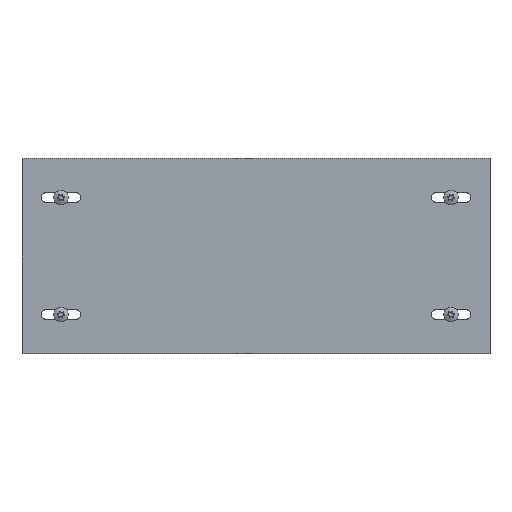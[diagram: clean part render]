
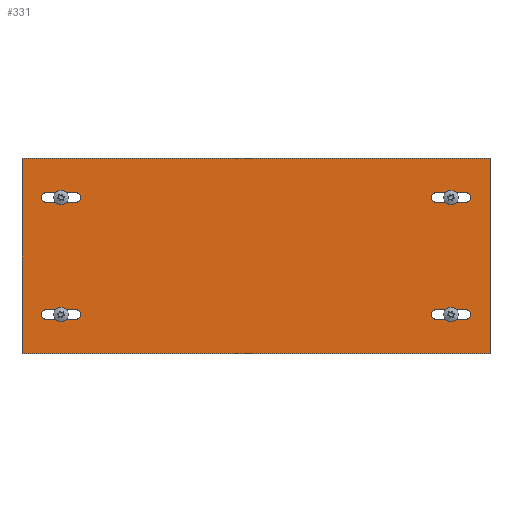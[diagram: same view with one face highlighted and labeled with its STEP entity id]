
A CAD part, top view. The second image highlights one B-rep face of the part: STEP entity #331.
In plain terms, the highlighted planar face has unit normal (0, 0, 1).
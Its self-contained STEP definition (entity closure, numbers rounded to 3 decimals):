
#55 = EDGE_CURVE('',#56,#58,#60,.T.);
#56 = VERTEX_POINT('',#57);
#57 = CARTESIAN_POINT('',(-150.,62.5,0.));
#58 = VERTEX_POINT('',#59);
#59 = CARTESIAN_POINT('',(-150.,-62.5,0.));
#60 = LINE('',#61,#62);
#61 = CARTESIAN_POINT('',(-150.,-62.5,0.));
#62 = VECTOR('',#63,1.);
#63 = DIRECTION('',(-0.,-1.,-0.));
#95 = EDGE_CURVE('',#96,#56,#98,.T.);
#96 = VERTEX_POINT('',#97);
#97 = CARTESIAN_POINT('',(150.,62.5,0.));
#98 = LINE('',#99,#100);
#99 = CARTESIAN_POINT('',(150.,62.5,0.));
#100 = VECTOR('',#101,1.);
#101 = DIRECTION('',(-1.,0.,0.));
#126 = EDGE_CURVE('',#127,#96,#129,.T.);
#127 = VERTEX_POINT('',#128);
#128 = CARTESIAN_POINT('',(150.,-62.5,0.));
#129 = LINE('',#130,#131);
#130 = CARTESIAN_POINT('',(150.,-62.5,0.));
#131 = VECTOR('',#132,1.);
#132 = DIRECTION('',(0.,1.,0.));
#157 = EDGE_CURVE('',#58,#127,#158,.T.);
#158 = LINE('',#159,#160);
#159 = CARTESIAN_POINT('',(150.,-62.5,0.));
#160 = VECTOR('',#161,1.);
#161 = DIRECTION('',(1.,0.,-0.));
#331 = ADVANCED_FACE('',(#332,#368,#404,#440,#476),#482,.T.);
#332 = FACE_BOUND('',#333,.T.);
#333 = EDGE_LOOP('',(#334,#345,#353,#362));
#334 = ORIENTED_EDGE('',*,*,#335,.F.);
#335 = EDGE_CURVE('',#336,#338,#340,.T.);
#336 = VERTEX_POINT('',#337);
#337 = CARTESIAN_POINT('',(-115.75,-40.75,0.));
#338 = VERTEX_POINT('',#339);
#339 = CARTESIAN_POINT('',(-115.75,-34.25,0.));
#340 = CIRCLE('',#341,3.25);
#341 = AXIS2_PLACEMENT_3D('',#342,#343,#344);
#342 = CARTESIAN_POINT('',(-115.75,-37.5,0.));
#343 = DIRECTION('',(0.,0.,1.));
#344 = DIRECTION('',(1.,0.,-0.));
#345 = ORIENTED_EDGE('',*,*,#346,.F.);
#346 = EDGE_CURVE('',#347,#336,#349,.T.);
#347 = VERTEX_POINT('',#348);
#348 = CARTESIAN_POINT('',(-134.25,-40.75,0.));
#349 = LINE('',#350,#351);
#350 = CARTESIAN_POINT('',(-115.75,-40.75,0.));
#351 = VECTOR('',#352,1.);
#352 = DIRECTION('',(1.,-0.,-0.));
#353 = ORIENTED_EDGE('',*,*,#354,.F.);
#354 = EDGE_CURVE('',#355,#347,#357,.T.);
#355 = VERTEX_POINT('',#356);
#356 = CARTESIAN_POINT('',(-134.25,-34.25,0.));
#357 = CIRCLE('',#358,3.25);
#358 = AXIS2_PLACEMENT_3D('',#359,#360,#361);
#359 = CARTESIAN_POINT('',(-134.25,-37.5,0.));
#360 = DIRECTION('',(0.,0.,1.));
#361 = DIRECTION('',(1.,0.,-0.));
#362 = ORIENTED_EDGE('',*,*,#363,.F.);
#363 = EDGE_CURVE('',#338,#355,#364,.T.);
#364 = LINE('',#365,#366);
#365 = CARTESIAN_POINT('',(-115.75,-34.25,0.));
#366 = VECTOR('',#367,1.);
#367 = DIRECTION('',(-1.,0.,0.));
#368 = FACE_BOUND('',#369,.T.);
#369 = EDGE_LOOP('',(#370,#381,#389,#398));
#370 = ORIENTED_EDGE('',*,*,#371,.F.);
#371 = EDGE_CURVE('',#372,#374,#376,.T.);
#372 = VERTEX_POINT('',#373);
#373 = CARTESIAN_POINT('',(-115.75,34.25,0.));
#374 = VERTEX_POINT('',#375);
#375 = CARTESIAN_POINT('',(-115.75,40.75,0.));
#376 = CIRCLE('',#377,3.25);
#377 = AXIS2_PLACEMENT_3D('',#378,#379,#380);
#378 = CARTESIAN_POINT('',(-115.75,37.5,0.));
#379 = DIRECTION('',(0.,0.,1.));
#380 = DIRECTION('',(-1.,0.,0.));
#381 = ORIENTED_EDGE('',*,*,#382,.F.);
#382 = EDGE_CURVE('',#383,#372,#385,.T.);
#383 = VERTEX_POINT('',#384);
#384 = CARTESIAN_POINT('',(-134.25,34.25,0.));
#385 = LINE('',#386,#387);
#386 = CARTESIAN_POINT('',(-115.75,34.25,0.));
#387 = VECTOR('',#388,1.);
#388 = DIRECTION('',(1.,-0.,-0.));
#389 = ORIENTED_EDGE('',*,*,#390,.F.);
#390 = EDGE_CURVE('',#391,#383,#393,.T.);
#391 = VERTEX_POINT('',#392);
#392 = CARTESIAN_POINT('',(-134.25,40.75,0.));
#393 = CIRCLE('',#394,3.25);
#394 = AXIS2_PLACEMENT_3D('',#395,#396,#397);
#395 = CARTESIAN_POINT('',(-134.25,37.5,0.));
#396 = DIRECTION('',(0.,0.,1.));
#397 = DIRECTION('',(-1.,0.,0.));
#398 = ORIENTED_EDGE('',*,*,#399,.F.);
#399 = EDGE_CURVE('',#374,#391,#400,.T.);
#400 = LINE('',#401,#402);
#401 = CARTESIAN_POINT('',(-115.75,40.75,0.));
#402 = VECTOR('',#403,1.);
#403 = DIRECTION('',(-1.,0.,0.));
#404 = FACE_BOUND('',#405,.T.);
#405 = EDGE_LOOP('',(#406,#417,#425,#434));
#406 = ORIENTED_EDGE('',*,*,#407,.F.);
#407 = EDGE_CURVE('',#408,#410,#412,.T.);
#408 = VERTEX_POINT('',#409);
#409 = CARTESIAN_POINT('',(115.75,40.75,0.));
#410 = VERTEX_POINT('',#411);
#411 = CARTESIAN_POINT('',(115.75,34.25,0.));
#412 = CIRCLE('',#413,3.25);
#413 = AXIS2_PLACEMENT_3D('',#414,#415,#416);
#414 = CARTESIAN_POINT('',(115.75,37.5,0.));
#415 = DIRECTION('',(0.,0.,1.));
#416 = DIRECTION('',(1.,0.,-0.));
#417 = ORIENTED_EDGE('',*,*,#418,.F.);
#418 = EDGE_CURVE('',#419,#408,#421,.T.);
#419 = VERTEX_POINT('',#420);
#420 = CARTESIAN_POINT('',(134.25,40.75,0.));
#421 = LINE('',#422,#423);
#422 = CARTESIAN_POINT('',(115.75,40.75,0.));
#423 = VECTOR('',#424,1.);
#424 = DIRECTION('',(-1.,-0.,-0.));
#425 = ORIENTED_EDGE('',*,*,#426,.F.);
#426 = EDGE_CURVE('',#427,#419,#429,.T.);
#427 = VERTEX_POINT('',#428);
#428 = CARTESIAN_POINT('',(134.25,34.25,0.));
#429 = CIRCLE('',#430,3.25);
#430 = AXIS2_PLACEMENT_3D('',#431,#432,#433);
#431 = CARTESIAN_POINT('',(134.25,37.5,0.));
#432 = DIRECTION('',(0.,0.,1.));
#433 = DIRECTION('',(1.,0.,-0.));
#434 = ORIENTED_EDGE('',*,*,#435,.F.);
#435 = EDGE_CURVE('',#410,#427,#436,.T.);
#436 = LINE('',#437,#438);
#437 = CARTESIAN_POINT('',(115.75,34.25,0.));
#438 = VECTOR('',#439,1.);
#439 = DIRECTION('',(1.,0.,0.));
#440 = FACE_BOUND('',#441,.T.);
#441 = EDGE_LOOP('',(#442,#453,#461,#470));
#442 = ORIENTED_EDGE('',*,*,#443,.F.);
#443 = EDGE_CURVE('',#444,#446,#448,.T.);
#444 = VERTEX_POINT('',#445);
#445 = CARTESIAN_POINT('',(115.75,-34.25,0.));
#446 = VERTEX_POINT('',#447);
#447 = CARTESIAN_POINT('',(115.75,-40.75,0.));
#448 = CIRCLE('',#449,3.25);
#449 = AXIS2_PLACEMENT_3D('',#450,#451,#452);
#450 = CARTESIAN_POINT('',(115.75,-37.5,0.));
#451 = DIRECTION('',(0.,0.,1.));
#452 = DIRECTION('',(-1.,0.,0.));
#453 = ORIENTED_EDGE('',*,*,#454,.F.);
#454 = EDGE_CURVE('',#455,#444,#457,.T.);
#455 = VERTEX_POINT('',#456);
#456 = CARTESIAN_POINT('',(134.25,-34.25,0.));
#457 = LINE('',#458,#459);
#458 = CARTESIAN_POINT('',(115.75,-34.25,0.));
#459 = VECTOR('',#460,1.);
#460 = DIRECTION('',(-1.,-0.,-0.));
#461 = ORIENTED_EDGE('',*,*,#462,.F.);
#462 = EDGE_CURVE('',#463,#455,#465,.T.);
#463 = VERTEX_POINT('',#464);
#464 = CARTESIAN_POINT('',(134.25,-40.75,0.));
#465 = CIRCLE('',#466,3.25);
#466 = AXIS2_PLACEMENT_3D('',#467,#468,#469);
#467 = CARTESIAN_POINT('',(134.25,-37.5,0.));
#468 = DIRECTION('',(0.,0.,1.));
#469 = DIRECTION('',(-1.,0.,0.));
#470 = ORIENTED_EDGE('',*,*,#471,.F.);
#471 = EDGE_CURVE('',#446,#463,#472,.T.);
#472 = LINE('',#473,#474);
#473 = CARTESIAN_POINT('',(115.75,-40.75,0.));
#474 = VECTOR('',#475,1.);
#475 = DIRECTION('',(1.,0.,0.));
#476 = FACE_BOUND('',#477,.T.);
#477 = EDGE_LOOP('',(#478,#479,#480,#481));
#478 = ORIENTED_EDGE('',*,*,#55,.T.);
#479 = ORIENTED_EDGE('',*,*,#157,.T.);
#480 = ORIENTED_EDGE('',*,*,#126,.T.);
#481 = ORIENTED_EDGE('',*,*,#95,.T.);
#482 = PLANE('',#483);
#483 = AXIS2_PLACEMENT_3D('',#484,#485,#486);
#484 = CARTESIAN_POINT('',(0.,0.,0.));
#485 = DIRECTION('',(0.,-0.,1.));
#486 = DIRECTION('',(1.,0.,0.));
